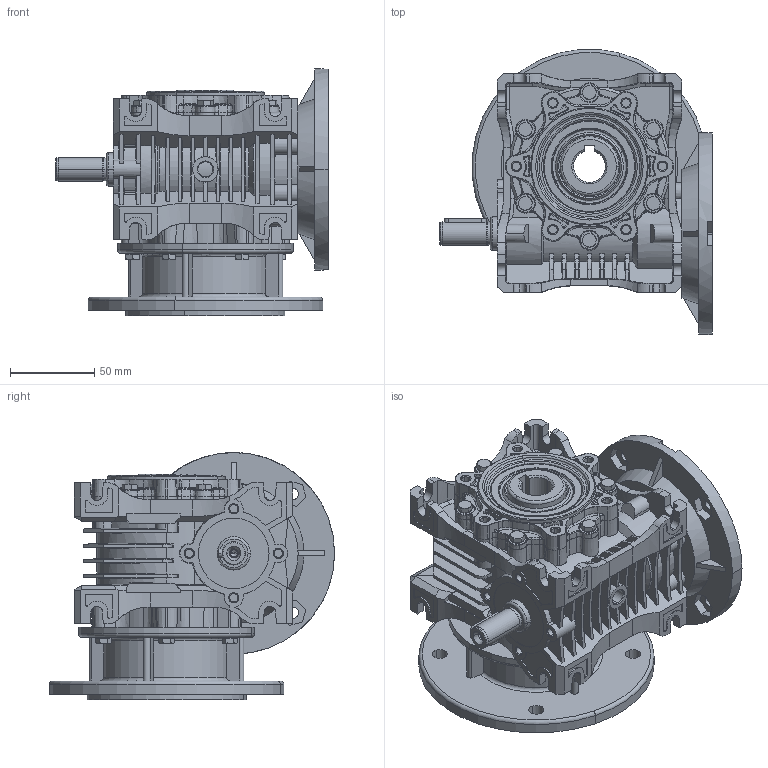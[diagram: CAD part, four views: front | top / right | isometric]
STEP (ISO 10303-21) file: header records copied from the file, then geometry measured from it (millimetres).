
FILE_DESCRIPTION (( 'STEP AP203' ), '1' );
FILE_NAME ('MR-40_120-9-WBS-K140_1-3D.STEP', '2023-11-27T10:51:50', ( '' ), ( '' ), 'SwSTEP 2.0', 'SolidWorks 2022', '' );
FILE_SCHEMA (( 'CONFIG_CONTROL_DESIGN' ));
Products named in the file (1): MR-40_120-9-WBS-K140_1-3D
Bounding box: 162 x 169.73 x 147 mm (x, y, z)
Volume: 972545.1 mm3; surface area: 227145.2 mm2
Topology: 1 solids, 43 shells, 3119 faces, 8108 edges, 5130 vertices
Faces by surface type: plane 1203, cone 791, cylinder 683, torus 262, bspline 180
Entity records: 101987 total; most frequent: CARTESIAN_POINT 27115, ORIENTED_EDGE 16112, DIRECTION 15580, EDGE_CURVE 8056, AXIS2_PLACEMENT_3D 5997, VERTEX_POINT 5130, VECTOR 3586, LINE 3586
